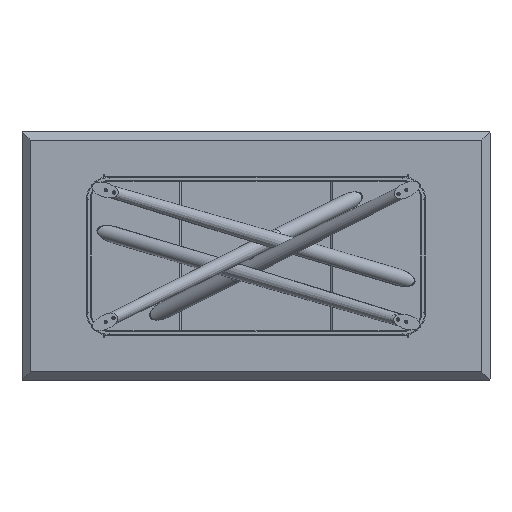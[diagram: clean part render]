
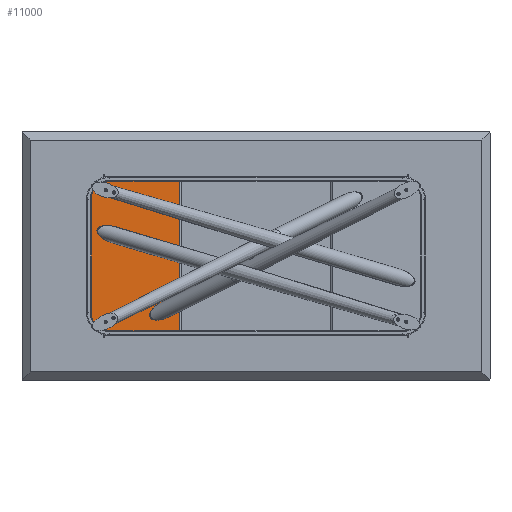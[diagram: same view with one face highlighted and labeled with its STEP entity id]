
A CAD part, front view. The second image highlights one B-rep face of the part: STEP entity #11000.
In plain terms, the highlighted planar face has unit normal (0, -1, 0).
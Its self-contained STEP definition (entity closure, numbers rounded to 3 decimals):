
#99 = EDGE_CURVE ( 'NONE', #7599, #5946, #8539, .T. ) ;
#100 = CARTESIAN_POINT ( 'NONE',  ( -650., 0., 265. ) ) ;
#379 = FACE_BOUND ( 'NONE', #7724, .T. ) ;
#407 = CARTESIAN_POINT ( 'NONE',  ( -650., 0., -260.5 ) ) ;
#676 = EDGE_CURVE ( 'NONE', #3706, #10541, #11494, .T. ) ;
#1226 = EDGE_CURVE ( 'NONE', #10541, #3706, #8118, .T. ) ;
#1508 = CARTESIAN_POINT ( 'NONE',  ( -625., 0., 320. ) ) ;
#1968 = ORIENTED_EDGE ( 'NONE', *, *, #3663, .F. ) ;
#2267 = PLANE ( 'NONE',  #4683 ) ;
#2663 = VERTEX_POINT ( 'NONE', #8479 ) ;
#2817 = CARTESIAN_POINT ( 'NONE',  ( -327., 0., -320. ) ) ;
#2851 = EDGE_CURVE ( 'NONE', #2663, #7042, #3268, .T. ) ;
#3072 = CARTESIAN_POINT ( 'NONE',  ( -650., 0., -265. ) ) ;
#3127 = CARTESIAN_POINT ( 'NONE',  ( -625., 0., -240. ) ) ;
#3219 = CARTESIAN_POINT ( 'NONE',  ( -705., 0., -240. ) ) ;
#3268 = LINE ( 'NONE', #6771, #6462 ) ;
#3335 = CIRCLE ( 'NONE', #4286, 4.5 ) ;
#3574 = AXIS2_PLACEMENT_3D ( 'NONE', #100, #5138, #3707 ) ;
#3579 = CARTESIAN_POINT ( 'NONE',  ( -650., 0., -265. ) ) ;
#3663 = EDGE_CURVE ( 'NONE', #7042, #7599, #10804, .T. ) ;
#3678 = CARTESIAN_POINT ( 'NONE',  ( -625., 0., 240. ) ) ;
#3706 = VERTEX_POINT ( 'NONE', #10269 ) ;
#3707 = DIRECTION ( 'NONE',  ( 0., 0., -1. ) ) ;
#4038 = DIRECTION ( 'NONE',  ( -1., 0., 0. ) ) ;
#4286 = AXIS2_PLACEMENT_3D ( 'NONE', #3072, #4795, #5619 ) ;
#4317 = ORIENTED_EDGE ( 'NONE', *, *, #2851, .F. ) ;
#4562 = AXIS2_PLACEMENT_3D ( 'NONE', #7062, #7945, #6296 ) ;
#4683 = AXIS2_PLACEMENT_3D ( 'NONE', #5821, #6765, #10348 ) ;
#4795 = DIRECTION ( 'NONE',  ( 0., -1., 0. ) ) ;
#4796 = VERTEX_POINT ( 'NONE', #9265 ) ;
#5138 = DIRECTION ( 'NONE',  ( 0., -1., 0. ) ) ;
#5532 = ORIENTED_EDGE ( 'NONE', *, *, #9590, .T. ) ;
#5619 = DIRECTION ( 'NONE',  ( 0., 0., -1. ) ) ;
#5669 = ORIENTED_EDGE ( 'NONE', *, *, #1226, .F. ) ;
#5728 = AXIS2_PLACEMENT_3D ( 'NONE', #3127, #10319, #9435 ) ;
#5771 = CARTESIAN_POINT ( 'NONE',  ( -650., 0., 269.5 ) ) ;
#5821 = CARTESIAN_POINT ( 'NONE',  ( -625., 0., 240. ) ) ;
#5902 = ORIENTED_EDGE ( 'NONE', *, *, #11170, .F. ) ;
#5944 = ORIENTED_EDGE ( 'NONE', *, *, #676, .F. ) ;
#5946 = VERTEX_POINT ( 'NONE', #6122 ) ;
#6101 = ORIENTED_EDGE ( 'NONE', *, *, #10325, .F. ) ;
#6122 = CARTESIAN_POINT ( 'NONE',  ( -705., 0., 240. ) ) ;
#6221 = CARTESIAN_POINT ( 'NONE',  ( -625., 0., 320. ) ) ;
#6296 = DIRECTION ( 'NONE',  ( 0., 0., -1. ) ) ;
#6403 = DIRECTION ( 'NONE',  ( 0., 1., 0. ) ) ;
#6421 = DIRECTION ( 'NONE',  ( 0., 0., 1. ) ) ;
#6462 = VECTOR ( 'NONE', #4038, 1000. ) ;
#6511 = ORIENTED_EDGE ( 'NONE', *, *, #6650, .F. ) ;
#6543 = DIRECTION ( 'NONE',  ( 0., 0., -1. ) ) ;
#6622 = EDGE_LOOP ( 'NONE', ( #5532, #5902, #6511, #7840, #1968, #4317 ) ) ;
#6650 = EDGE_CURVE ( 'NONE', #5946, #7846, #11403, .T. ) ;
#6707 = FACE_OUTER_BOUND ( 'NONE', #6622, .T. ) ;
#6765 = DIRECTION ( 'NONE',  ( 0., 1., 0. ) ) ;
#6771 = CARTESIAN_POINT ( 'NONE',  ( -625., 0., -320. ) ) ;
#6945 = VECTOR ( 'NONE', #6421, 1000. ) ;
#6956 = CARTESIAN_POINT ( 'NONE',  ( -327., 0., 320. ) ) ;
#7042 = VERTEX_POINT ( 'NONE', #10866 ) ;
#7062 = CARTESIAN_POINT ( 'NONE',  ( -650., 0., 265. ) ) ;
#7212 = VERTEX_POINT ( 'NONE', #407 ) ;
#7599 = VERTEX_POINT ( 'NONE', #10728 ) ;
#7724 = EDGE_LOOP ( 'NONE', ( #5944, #5669 ) ) ;
#7840 = ORIENTED_EDGE ( 'NONE', *, *, #99, .F. ) ;
#7846 = VERTEX_POINT ( 'NONE', #1508 ) ;
#7896 = VECTOR ( 'NONE', #10692, 1000. ) ;
#7945 = DIRECTION ( 'NONE',  ( 0., -1., 0. ) ) ;
#8118 = CIRCLE ( 'NONE', #4562, 4.5 ) ;
#8160 = LINE ( 'NONE', #6221, #7896 ) ;
#8479 = CARTESIAN_POINT ( 'NONE',  ( -327., 0., -320. ) ) ;
#8539 = LINE ( 'NONE', #3219, #8653 ) ;
#8558 = EDGE_CURVE ( 'NONE', #4796, #7212, #3335, .T. ) ;
#8653 = VECTOR ( 'NONE', #11185, 1000. ) ;
#9179 = AXIS2_PLACEMENT_3D ( 'NONE', #3579, #9246, #6543 ) ;
#9246 = DIRECTION ( 'NONE',  ( 0., -1., 0. ) ) ;
#9265 = CARTESIAN_POINT ( 'NONE',  ( -650., 0., -269.5 ) ) ;
#9435 = DIRECTION ( 'NONE',  ( 0., 0., 1. ) ) ;
#9537 = ORIENTED_EDGE ( 'NONE', *, *, #8558, .F. ) ;
#9590 = EDGE_CURVE ( 'NONE', #2663, #10154, #10901, .T. ) ;
#10003 = DIRECTION ( 'NONE',  ( 0., 0., 1. ) ) ;
#10154 = VERTEX_POINT ( 'NONE', #6956 ) ;
#10269 = CARTESIAN_POINT ( 'NONE',  ( -650., 0., 260.5 ) ) ;
#10319 = DIRECTION ( 'NONE',  ( 0., 1., 0. ) ) ;
#10325 = EDGE_CURVE ( 'NONE', #7212, #4796, #10888, .T. ) ;
#10348 = DIRECTION ( 'NONE',  ( 0., 0., 1. ) ) ;
#10541 = VERTEX_POINT ( 'NONE', #5771 ) ;
#10692 = DIRECTION ( 'NONE',  ( 1., 0., 0. ) ) ;
#10728 = CARTESIAN_POINT ( 'NONE',  ( -705., 0., -240. ) ) ;
#10804 = CIRCLE ( 'NONE', #5728, 80. ) ;
#10840 = AXIS2_PLACEMENT_3D ( 'NONE', #3678, #6403, #10003 ) ;
#10866 = CARTESIAN_POINT ( 'NONE',  ( -625., 0., -320. ) ) ;
#10888 = CIRCLE ( 'NONE', #9179, 4.5 ) ;
#10901 = LINE ( 'NONE', #2817, #6945 ) ;
#11000 = ADVANCED_FACE ( 'NONE', ( #379, #11179, #6707 ), #2267, .F. ) ;
#11170 = EDGE_CURVE ( 'NONE', #7846, #10154, #8160, .T. ) ;
#11179 = FACE_BOUND ( 'NONE', #11308, .T. ) ;
#11185 = DIRECTION ( 'NONE',  ( 0., 0., 1. ) ) ;
#11308 = EDGE_LOOP ( 'NONE', ( #9537, #6101 ) ) ;
#11403 = CIRCLE ( 'NONE', #10840, 80. ) ;
#11494 = CIRCLE ( 'NONE', #3574, 4.5 ) ;
